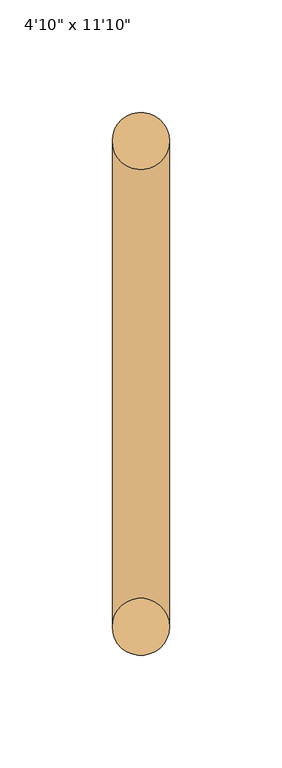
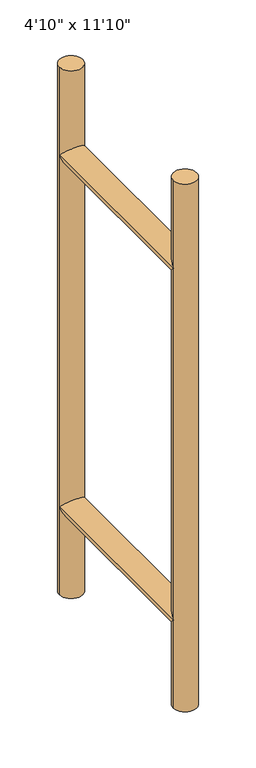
"""IFC4 building model written with IfcOpenShell, lengths in millimetres: door geometry."""

from ifc_helpers import new_model, si_unit, frame, origin, place, context, project, spatial, circle_curve, ellipse_curve, source, transform, mapped, element, save
from ifc_brep_helpers import plane_surface, cylinder_surface, advanced_brep


def door_511294f8(model_context):
    return source(origin(), model_context, "Body", "AdvancedBrep", [
        advanced_brep(
        [(-660.4, -133.35, 1219.2), (-685.8, -133.35, 1219.2), (-685.8, 82.55, 1219.2), (-660.4, 82.55, 1219.2), (-660.4, -133.35, 812.8), (-685.8, -133.35, 812.8), (-685.8, 82.55, 812.8), (-660.4, 82.55, 812.8), (-685.8, -133.35, 1320.8), (-660.4, -133.35, 1320.8), (-685.8, 82.55, 1320.8), (-660.4, 82.55, 1320.8), (-685.8, -133.35, 711.2), (-660.4, -133.35, 711.2), (-685.8, 82.55, 711.2), (-660.4, 82.55, 711.2)],
        [
            (0, 1, ellipse_curve(frame((-673.1, -133.35, 1219.2), z_axis=(0.0, 0.7071067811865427, 0.7071067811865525), x_axis=(0.0, -0.7071067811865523, 0.7071067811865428)), 17.9605122, 12.7)),
            (1, 2),
            (2, 3, ellipse_curve(frame((-673.1, 82.55, 1219.2), z_axis=(0.0, -0.7071067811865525, 0.7071067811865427), x_axis=(0.0, -0.7071067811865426, -0.7071067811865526)), 17.9605122, 12.7)),
            (3, 0),
            (3, 2, ellipse_curve(frame((-673.1, 82.55, 1219.2), z_axis=(0.0, -0.7071067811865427, -0.7071067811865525), x_axis=(0.0, -0.7071067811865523, 0.7071067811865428)), 17.9605122, 12.7)),
            (1, 0, ellipse_curve(frame((-673.1, -133.35, 1219.2), z_axis=(0.0, 0.7071067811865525, -0.7071067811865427), x_axis=(0.0, -0.7071067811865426, -0.7071067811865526)), 17.9605122, 12.7)),
            (4, 5, ellipse_curve(frame((-673.1, -133.35, 812.8), z_axis=(0.0, 0.7071067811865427, 0.7071067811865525), x_axis=(0.0, -0.7071067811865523, 0.7071067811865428)), 17.9605122, 12.7)),
            (5, 6),
            (6, 7, ellipse_curve(frame((-673.1, 82.55, 812.8), z_axis=(0.0, -0.7071067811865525, 0.7071067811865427), x_axis=(0.0, -0.7071067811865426, -0.7071067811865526)), 17.9605122, 12.7)),
            (7, 4),
            (7, 6, ellipse_curve(frame((-673.1, 82.55, 812.8), z_axis=(0.0, -0.7071067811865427, -0.7071067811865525), x_axis=(0.0, -0.7071067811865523, 0.7071067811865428)), 17.9605122, 12.7)),
            (5, 4, ellipse_curve(frame((-673.1, -133.35, 812.8), z_axis=(0.0, 0.7071067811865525, -0.7071067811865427), x_axis=(0.0, -0.7071067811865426, -0.7071067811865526)), 17.9605122, 12.7)),
            (8, 9, circle_curve(frame((-673.1, -133.35, 1320.8), z_axis=(0.0, 0.0, 1.0), x_axis=(1.0, 0.0, 0.0)), 12.7)),
            (9, 8, circle_curve(frame((-673.1, -133.35, 1320.8), z_axis=(0.0, 0.0, 1.0), x_axis=(1.0, 0.0, 0.0)), 12.7)),
            (10, 11, circle_curve(frame((-673.1, 82.55, 1320.8), z_axis=(0.0, 0.0, 1.0), x_axis=(1.0, 0.0, 0.0)), 12.7)),
            (11, 10, circle_curve(frame((-673.1, 82.55, 1320.8), z_axis=(0.0, 0.0, 1.0), x_axis=(1.0, 0.0, 0.0)), 12.7)),
            (12, 13, circle_curve(frame((-673.1, -133.35, 711.2), z_axis=(0.0, 0.0, -1.0), x_axis=(1.0, 0.0, 0.0)), 12.7)),
            (13, 12, circle_curve(frame((-673.1, -133.35, 711.2), z_axis=(0.0, 0.0, -1.0), x_axis=(1.0, 0.0, 0.0)), 12.7)),
            (14, 15, circle_curve(frame((-673.1, 82.55, 711.2), z_axis=(0.0, 0.0, -1.0), x_axis=(1.0, 0.0, 0.0)), 12.7)),
            (15, 14, circle_curve(frame((-673.1, 82.55, 711.2), z_axis=(0.0, 0.0, -1.0), x_axis=(1.0, 0.0, 0.0)), 12.7)),
            (8, 1),
            (1, 5),
            (5, 12),
            (13, 4),
            (4, 0),
            (0, 9),
            (7, 3),
            (2, 6),
            (15, 7),
            (6, 14),
            (10, 2),
            (3, 11),
        ],
        [
            cylinder_surface(frame((-673.1, 82.55, 1219.2), z_axis=(0.0, -1.0, 0.0), x_axis=(1.0, 0.0, 0.0)), 12.7),
            cylinder_surface(frame((-673.1, 0.0, 812.8), z_axis=(0.0, -1.0, 0.0), x_axis=(1.0, 0.0, 0.0)), 12.7),
            plane_surface(frame((-660.4, -133.35, 1320.8), z_axis=(0.0, 0.0, 1.0), x_axis=(0.0, -1.0, 0.0))),
            plane_surface(frame((-660.4, -133.35, 711.2), z_axis=(0.0, 0.0, -1.0), x_axis=(0.0, 1.0, 0.0))),
            cylinder_surface(frame((-673.1, -133.35, 711.2), z_axis=(0.0, 0.0, 1.0), x_axis=(1.0, 0.0, 0.0)), 12.7),
            cylinder_surface(frame((-673.1, 82.55, 0.0), z_axis=(0.0, 0.0, 1.0), x_axis=(1.0, 0.0, 0.0)), 12.7),
        ],
        [
            (0, [[1, 2, 3, 4]]),
            (0, [[5, -2, 6, -4]]),
            (1, [[7, 8, 9, 10]]),
            (1, [[11, -8, 12, -10]]),
            (2, [[13, 14]]),
            (2, [[15, 16]]),
            (3, [[17, 18]]),
            (3, [[19, 20]]),
            (4, [[21, 22, 23, -18, 24, 25, 26, -13]]),
            (4, [[-12, -22, -1, -25]]),
            (4, [[-26, -6, -21, -14]]),
            (4, [[-23, -7, -24, -17]]),
            (5, [[-11, 27, -3, 28]]),
            (5, [[29, -9, 30, -20]]),
            (5, [[31, -5, 32, -15]]),
            (5, [[-32, -27, -29, -19, -30, -28, -31, -16]]),
        ],
    ),
    ])


if __name__ == "__main__":
    model = new_model("IFC4")
    model_context = context("Model", 3, world=origin())
    ifc_project = project(units=[si_unit("LENGTHUNIT", "METRE", prefix="MILLI")], contexts=[model_context])
    site = spatial("IfcSite", under=ifc_project)
    building = spatial("IfcBuilding", under=site)
    placement = place(None, origin())
    door_shape = door_511294f8(model_context)
    element("IfcDoor", 1, ObjectType="Planitar - Single Door_Swapper : 4'10\" x 11'10\"", at=placement, inside=building, context=model_context, shape_type="MappedRepresentation", body=[
        mapped(door_shape, transform((0.0, 0.0, 0.0), x_axis=(1.0, 0.0, 0.0), y_axis=(0.0, 1.0, 0.0), z_axis=(0.0, 0.0, 1.0))),
    ])
    save(model, "model.ifc")
